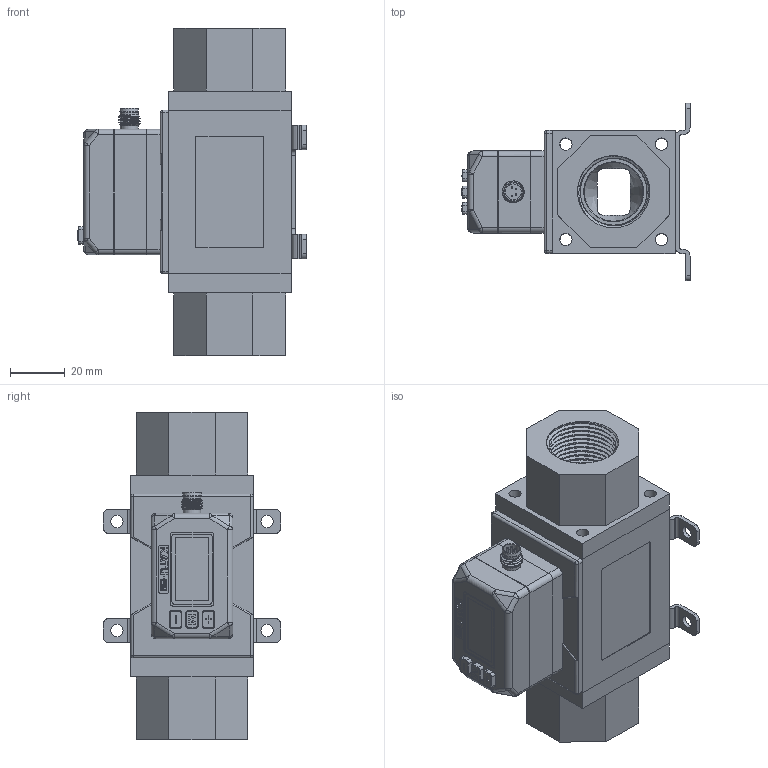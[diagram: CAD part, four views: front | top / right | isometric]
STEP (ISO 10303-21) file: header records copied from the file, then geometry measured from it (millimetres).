
FILE_DESCRIPTION( (''), '2;1');
FILE_NAME( 'QEKJ_100L_R3-4_M12_LED-display_bracket.step', '2023-06-26T19:37:47+08:00', (''), (''), '', '', '');
FILE_SCHEMA (('AUTOMOTIVE_DESIGN { 1 0 10303 214 3 1 1 1 }'));
Length unit declared in the file: millimetre
Products named in the file (1): QEKJ 100L_R3-4_M12_LED-display_bracket
Bounding box: 83.6 x 65 x 120 mm (x, y, z)
Volume: 148966.4 mm3; surface area: 76743.2 mm2
Topology: 8 solids, 9 shells, 986 faces, 2700 edges, 1766 vertices
Faces by surface type: plane 679, cylinder 213, cone 34, sphere 20, torus 18, extrusion 14, bspline 8
Full cylindrical faces by diameter (mm): 0.6 x4, 2.05 x4, 2.7 x4, 3 x4, 4.5 x24, 5 x4, 5.8 x1, 6.5 x2, 7 x4, 8 x1, 22 x2, 25 x2, 28 x4
Entity records: 37500 total; most frequent: CARTESIAN_POINT 12223, ORIENTED_EDGE 5088, DIRECTION 4748, EDGE_CURVE 2544, VECTOR 1856, LINE 1842, VERTEX_POINT 1717, AXIS2_PLACEMENT_3D 1446
